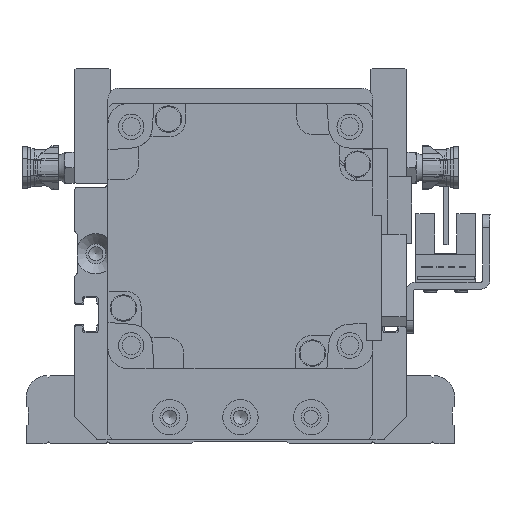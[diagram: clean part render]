
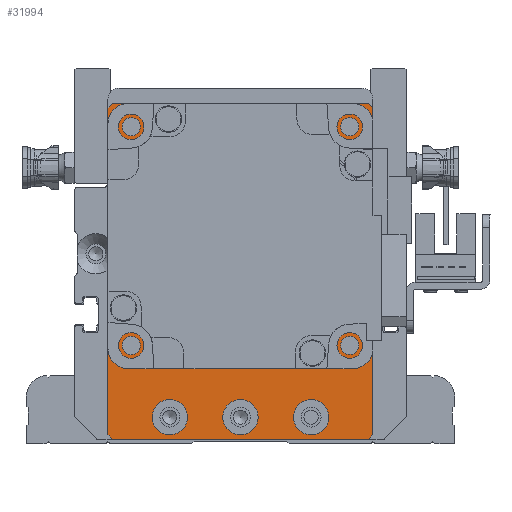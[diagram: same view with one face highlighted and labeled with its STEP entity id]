
A CAD part, front view. The second image highlights one B-rep face of the part: STEP entity #31994.
In plain terms, the highlighted planar face has unit normal (0, -1, 0) as drawn and (0, 0, 1) by its records, which use the part's own axes.
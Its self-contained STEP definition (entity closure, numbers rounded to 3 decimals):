
#1173=FACE_BOUND('',#6089,.T.);
#1174=FACE_BOUND('',#6090,.T.);
#1175=FACE_BOUND('',#6091,.T.);
#1176=FACE_BOUND('',#6092,.T.);
#1177=FACE_BOUND('',#6093,.T.);
#1178=FACE_BOUND('',#6094,.T.);
#1179=FACE_BOUND('',#6095,.T.);
#1180=FACE_BOUND('',#6096,.T.);
#1992=PLANE('',#35698);
#4075=FACE_OUTER_BOUND('',#6088,.T.);
#6088=EDGE_LOOP('',(#28056,#28057,#28058,#28059,#28060,#28061,#28062,#28063));
#6089=EDGE_LOOP('',(#28064));
#6090=EDGE_LOOP('',(#28065));
#6091=EDGE_LOOP('',(#28066));
#6092=EDGE_LOOP('',(#28067));
#6093=EDGE_LOOP('',(#28068));
#6094=EDGE_LOOP('',(#28069));
#6095=EDGE_LOOP('',(#28070));
#6096=EDGE_LOOP('',(#28071));
#8538=LINE('',#54877,#11104);
#8540=LINE('',#54881,#11106);
#8543=LINE('',#54887,#11109);
#8544=LINE('',#54889,#11110);
#8545=LINE('',#54891,#11111);
#8546=LINE('',#54893,#11112);
#8547=LINE('',#54895,#11113);
#8548=LINE('',#54896,#11114);
#11104=VECTOR('',#43683,10.);
#11106=VECTOR('',#43687,10.);
#11109=VECTOR('',#43692,10.);
#11110=VECTOR('',#43693,10.);
#11111=VECTOR('',#43694,10.);
#11112=VECTOR('',#43695,10.);
#11113=VECTOR('',#43696,10.);
#11114=VECTOR('',#43697,10.);
#13093=CIRCLE('',#35699,25.);
#13094=CIRCLE('',#35700,2.067);
#13095=CIRCLE('',#35701,2.067);
#13096=CIRCLE('',#35702,2.067);
#13097=CIRCLE('',#35703,2.067);
#13098=CIRCLE('',#35704,4.);
#13099=CIRCLE('',#35705,4.);
#13100=CIRCLE('',#35706,4.);
#15862=VERTEX_POINT('',#54874);
#15863=VERTEX_POINT('',#54876);
#15864=VERTEX_POINT('',#54880);
#15866=VERTEX_POINT('',#54886);
#15867=VERTEX_POINT('',#54888);
#15868=VERTEX_POINT('',#54890);
#15869=VERTEX_POINT('',#54892);
#15870=VERTEX_POINT('',#54894);
#15871=VERTEX_POINT('',#54897);
#15872=VERTEX_POINT('',#54899);
#15873=VERTEX_POINT('',#54901);
#15874=VERTEX_POINT('',#54903);
#15875=VERTEX_POINT('',#54905);
#15876=VERTEX_POINT('',#54907);
#15877=VERTEX_POINT('',#54909);
#15878=VERTEX_POINT('',#54911);
#20065=EDGE_CURVE('',#15863,#15862,#8538,.T.);
#20067=EDGE_CURVE('',#15863,#15864,#8540,.T.);
#20070=EDGE_CURVE('',#15866,#15862,#8543,.T.);
#20071=EDGE_CURVE('',#15866,#15867,#8544,.T.);
#20072=EDGE_CURVE('',#15868,#15867,#8545,.T.);
#20073=EDGE_CURVE('',#15868,#15869,#8546,.T.);
#20074=EDGE_CURVE('',#15870,#15869,#8547,.T.);
#20075=EDGE_CURVE('',#15870,#15864,#8548,.T.);
#20076=EDGE_CURVE('',#15871,#15871,#13093,.T.);
#20077=EDGE_CURVE('',#15872,#15872,#13094,.T.);
#20078=EDGE_CURVE('',#15873,#15873,#13095,.T.);
#20079=EDGE_CURVE('',#15874,#15874,#13096,.T.);
#20080=EDGE_CURVE('',#15875,#15875,#13097,.T.);
#20081=EDGE_CURVE('',#15876,#15876,#13098,.T.);
#20082=EDGE_CURVE('',#15877,#15877,#13099,.T.);
#20083=EDGE_CURVE('',#15878,#15878,#13100,.T.);
#28056=ORIENTED_EDGE('',*,*,#20067,.F.);
#28057=ORIENTED_EDGE('',*,*,#20065,.T.);
#28058=ORIENTED_EDGE('',*,*,#20070,.F.);
#28059=ORIENTED_EDGE('',*,*,#20071,.T.);
#28060=ORIENTED_EDGE('',*,*,#20072,.F.);
#28061=ORIENTED_EDGE('',*,*,#20073,.T.);
#28062=ORIENTED_EDGE('',*,*,#20074,.F.);
#28063=ORIENTED_EDGE('',*,*,#20075,.T.);
#28064=ORIENTED_EDGE('',*,*,#20076,.T.);
#28065=ORIENTED_EDGE('',*,*,#20077,.T.);
#28066=ORIENTED_EDGE('',*,*,#20078,.T.);
#28067=ORIENTED_EDGE('',*,*,#20079,.T.);
#28068=ORIENTED_EDGE('',*,*,#20080,.T.);
#28069=ORIENTED_EDGE('',*,*,#20081,.T.);
#28070=ORIENTED_EDGE('',*,*,#20082,.T.);
#28071=ORIENTED_EDGE('',*,*,#20083,.T.);
#31994=ADVANCED_FACE('',(#4075,#1173,#1174,#1175,#1176,#1177,#1178,#1179,
#1180),#1992,.T.);
#35698=AXIS2_PLACEMENT_3D('',#54885,#43690,#43691);
#35699=AXIS2_PLACEMENT_3D('',#54898,#43698,#43699);
#35700=AXIS2_PLACEMENT_3D('',#54900,#43700,#43701);
#35701=AXIS2_PLACEMENT_3D('',#54902,#43702,#43703);
#35702=AXIS2_PLACEMENT_3D('',#54904,#43704,#43705);
#35703=AXIS2_PLACEMENT_3D('',#54906,#43706,#43707);
#35704=AXIS2_PLACEMENT_3D('',#54908,#43708,#43709);
#35705=AXIS2_PLACEMENT_3D('',#54910,#43710,#43711);
#35706=AXIS2_PLACEMENT_3D('',#54912,#43712,#43713);
#43683=DIRECTION('',(1.,0.,0.));
#43687=DIRECTION('',(-0.707,0.707,0.));
#43690=DIRECTION('center_axis',(0.,0.,1.));
#43691=DIRECTION('ref_axis',(1.,0.,0.));
#43692=DIRECTION('',(-0.707,-0.707,0.));
#43693=DIRECTION('',(0.,1.,0.));
#43694=DIRECTION('',(0.707,-0.707,0.));
#43695=DIRECTION('',(-1.,0.,0.));
#43696=DIRECTION('',(0.707,0.707,0.));
#43697=DIRECTION('',(0.,-1.,0.));
#43698=DIRECTION('center_axis',(0.,0.,-1.));
#43699=DIRECTION('ref_axis',(1.,0.,0.));
#43700=DIRECTION('center_axis',(0.,0.,-1.));
#43701=DIRECTION('ref_axis',(1.,0.,0.));
#43702=DIRECTION('center_axis',(0.,0.,-1.));
#43703=DIRECTION('ref_axis',(1.,0.,0.));
#43704=DIRECTION('center_axis',(0.,0.,-1.));
#43705=DIRECTION('ref_axis',(1.,0.,0.));
#43706=DIRECTION('center_axis',(0.,0.,-1.));
#43707=DIRECTION('ref_axis',(1.,0.,0.));
#43708=DIRECTION('center_axis',(0.,0.,-1.));
#43709=DIRECTION('ref_axis',(1.,0.,0.));
#43710=DIRECTION('center_axis',(0.,0.,-1.));
#43711=DIRECTION('ref_axis',(1.,0.,0.));
#43712=DIRECTION('center_axis',(0.,0.,-1.));
#43713=DIRECTION('ref_axis',(1.,0.,0.));
#54874=CARTESIAN_POINT('',(29.,-38.,59.));
#54876=CARTESIAN_POINT('',(-29.,-38.,59.));
#54877=CARTESIAN_POINT('',(-30.,-38.,59.));
#54880=CARTESIAN_POINT('',(-30.,-37.,59.));
#54881=CARTESIAN_POINT('',(-31.5,-35.5,59.));
#54885=CARTESIAN_POINT('Origin',(0.,0.,
59.));
#54886=CARTESIAN_POINT('',(30.,-37.,59.));
#54887=CARTESIAN_POINT('',(31.5,-35.5,59.));
#54888=CARTESIAN_POINT('',(30.,37.,59.));
#54889=CARTESIAN_POINT('',(30.,-38.,59.));
#54890=CARTESIAN_POINT('',(29.,38.,59.));
#54891=CARTESIAN_POINT('',(31.5,35.5,59.));
#54892=CARTESIAN_POINT('',(-29.,38.,59.));
#54893=CARTESIAN_POINT('',(30.,38.,59.));
#54894=CARTESIAN_POINT('',(-30.,37.,59.));
#54895=CARTESIAN_POINT('',(-31.5,35.5,59.));
#54896=CARTESIAN_POINT('',(-30.,38.,59.));
#54897=CARTESIAN_POINT('',(-25.,8.,59.));
#54898=CARTESIAN_POINT('Origin',(0.,8.,59.));
#54899=CARTESIAN_POINT('',(22.682,-16.749,59.));
#54900=CARTESIAN_POINT('Origin',(24.749,-16.749,59.));
#54901=CARTESIAN_POINT('',(22.682,32.749,59.));
#54902=CARTESIAN_POINT('Origin',(24.749,32.749,59.));
#54903=CARTESIAN_POINT('',(-26.816,32.749,59.));
#54904=CARTESIAN_POINT('Origin',(-24.749,32.749,59.));
#54905=CARTESIAN_POINT('',(-26.816,-16.749,59.));
#54906=CARTESIAN_POINT('Origin',(-24.749,-16.749,59.));
#54907=CARTESIAN_POINT('',(12.,-33.,59.));
#54908=CARTESIAN_POINT('Origin',(16.,-33.,59.));
#54909=CARTESIAN_POINT('',(-4.,-33.,59.));
#54910=CARTESIAN_POINT('Origin',(0.,-33.,59.));
#54911=CARTESIAN_POINT('',(-20.,-33.,59.));
#54912=CARTESIAN_POINT('Origin',(-16.,-33.,59.));
